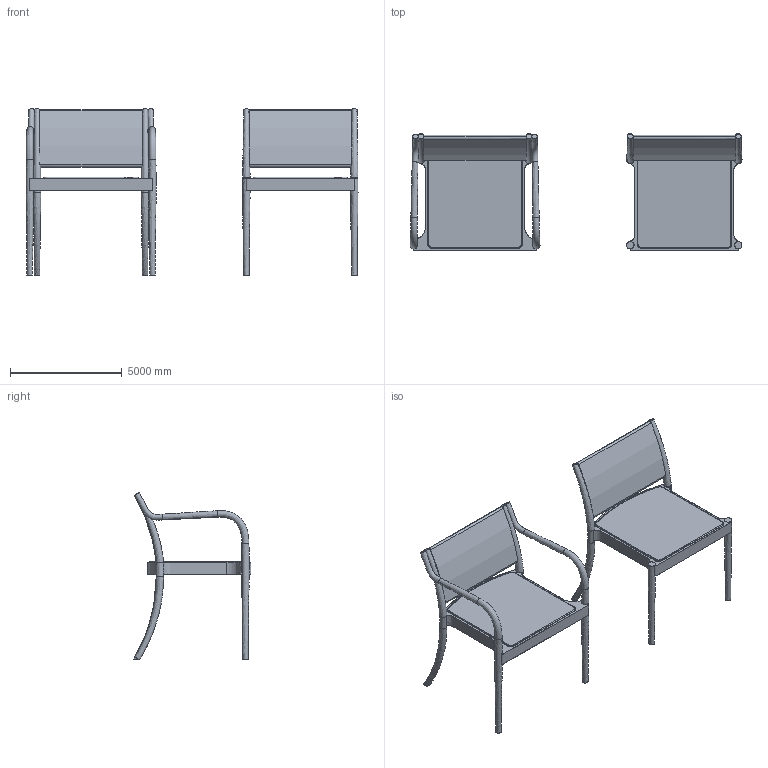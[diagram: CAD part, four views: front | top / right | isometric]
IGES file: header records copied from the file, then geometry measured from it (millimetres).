
Global section: file name: \\192.168.4.99\ufficio_tecnico\3d per sito\suu\suu.igs; native system: Rhinoceros ( Aug 10 2015 ); preprocessor: Trout Lake IGES 012 Aug 10 2015; date: 170609.075528; units: centimetre
Bounding box: 14879.5 x 5256.63 x 7465.92 mm (x, y, z)
Surface area: 248599441.7 mm2 (no closed solid volume)
Topology: 0 solids, 0 shells, 118 faces, 1344 edges, 1325 vertices
Faces by surface type: bspline 118
